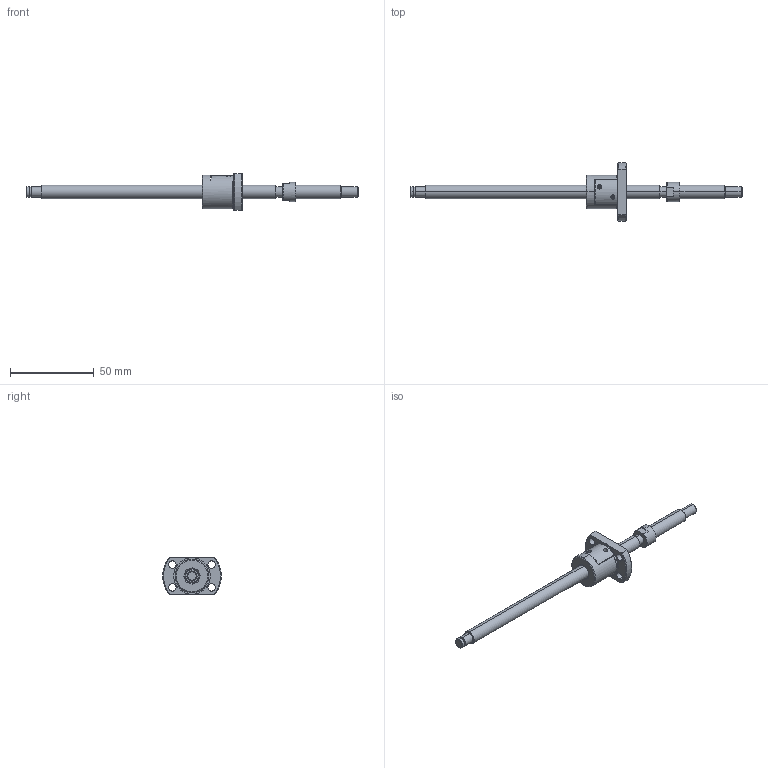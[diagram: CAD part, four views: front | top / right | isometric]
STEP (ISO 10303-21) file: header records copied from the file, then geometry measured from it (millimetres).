
FILE_DESCRIPTION (( 'STEP AP214' ), '1' );
FILE_NAME ('BS0802P-3D.STEP', '2014-03-05T15:16:03', ( '' ), ( '' ), 'SwSTEP 2.0', 'SolidWorks 2012', '' );
FILE_SCHEMA (( 'AUTOMOTIVE_DESIGN' ));
Length unit declared in the file: millimetre
Products named in the file (3): BS0802Pナット; BS0802PŽ²; BS0802P-3D
Assembly tree (2 placements, depth 2):
  BS0802P-3D
    BS0802PŽ²
    BS0802Pナット
Bounding box: 198 x 35 x 22 mm (x, y, z)
Volume: 17497.5 mm3; surface area: 9171 mm2
Topology: 2 solids, 2 shells, 139 faces, 332 edges, 212 vertices
Faces by surface type: plane 58, cylinder 55, cone 26
Entity records: 4316 total; most frequent: CARTESIAN_POINT 880, DIRECTION 732, ORIENTED_EDGE 664, EDGE_CURVE 332, AXIS2_PLACEMENT_3D 276, VERTEX_POINT 212, VECTOR 180, LINE 180
